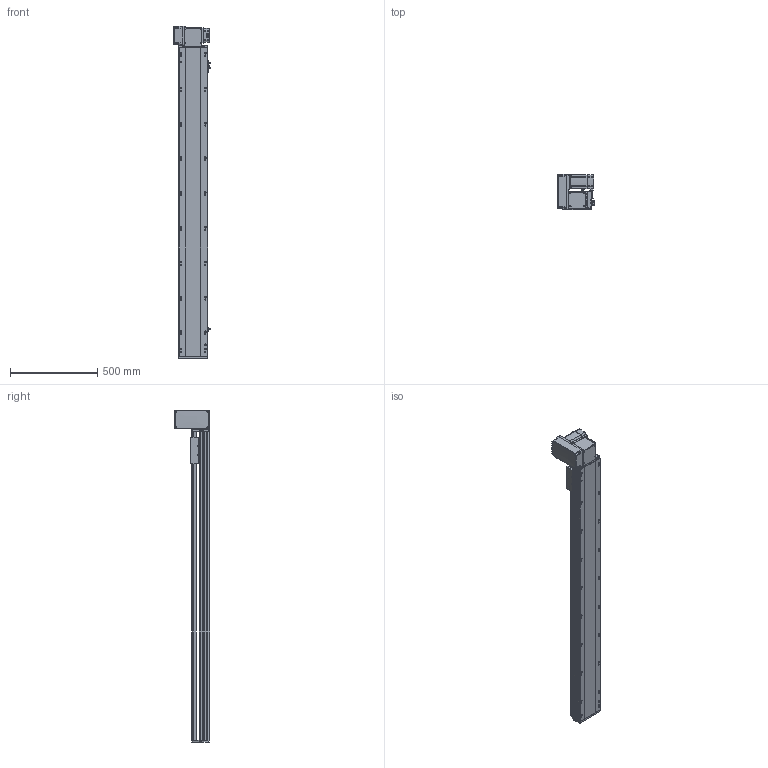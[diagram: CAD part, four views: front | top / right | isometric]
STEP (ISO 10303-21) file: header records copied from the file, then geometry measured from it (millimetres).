
FILE_DESCRIPTION (( 'STEP AP214' ), '1' );
FILE_NAME ('RTB17S-XX-1500-LW-M75-C4.STEP', '2025-12-12T01:07:38', ( '' ), ( '' ), 'SwSTEP 2.0', 'SolidWorks 2018', '' );
FILE_SCHEMA (( 'AUTOMOTIVE_DESIGN' ));
Length unit declared in the file: millimetre
Products named in the file (15): RTB22S-GY-008-M75--萇儂啣^RTB17S-LW-々湍釱蚾饜-750W_RTB17S-XX-XX-LW-M75-C4; RTB17S-L-004-賑釱^RTB17S-賑釱_RTB17S-XX-XX-LW-M75-C4; RTB17S-L-007奻裔^RTB17S-XX-XX-LW-M75-C4; RTB22S-GY-018P^RTB17S-LW-々湍釱蚾饜-750W_RTB17S-XX-XX-LW-M75-C4; RTB22S-GY-017P^RTB17S-LW-々湍釱蚾饜-750W_RTB17S-XX-XX-LW-M75-C4; RTH13-BL-012覜茼え俋离^RTB17S-賑釱_RTB17S-XX-XX-LW-M75-C4; RTB22S-GY-005P^RTB17S-LW-々湍釱蚾饜-750W_RTB17S-XX-XX-LW-M75-C4; RTB17S-L-001-耜醱啣^RTB17S-XX-XX-LW-M75-C4; RTB17S-L-014-T20-P75--々湍釱^RTB17S-LW-々湍釱蚾饜-750W_RTB17S-XX-XX-LW-M75-C4; 750W萇儂^RTB17S-XX-XX-LW-M75-C4; RTB17S-LW-々湍釱蚾饜-750W^RTB17S-XX-XX-LW-M75-C4; RTB17S-賑釱^RTB17S-XX-XX-LW-M75-C4; RTB17-R-011菁釱^RTB17S-XX-XX-LW-M75-C4; EE672^RTB17S-XX-XX-LW-M75-C4; RTB17S-XX-1500-LW-M75-C4
Assembly tree (17 placements, depth 3):
  RTB17S-XX-1500-LW-M75-C4
    RTB17-R-011菁釱^RTB17S-XX-XX-LW-M75-C4
    EE672^RTB17S-XX-XX-LW-M75-C4  x3
    RTB17S-L-001-耜醱啣^RTB17S-XX-XX-LW-M75-C4
    RTB17S-賑釱^RTB17S-XX-XX-LW-M75-C4
      RTB17S-L-004-賑釱^RTB17S-賑釱_RTB17S-XX-XX-LW-M75-C4
      RTH13-BL-012覜茼え俋离^RTB17S-賑釱_RTB17S-XX-XX-LW-M75-C4
    RTB17S-L-007奻裔^RTB17S-XX-XX-LW-M75-C4
    750W萇儂^RTB17S-XX-XX-LW-M75-C4
    RTB17S-LW-々湍釱蚾饜-750W^RTB17S-XX-XX-LW-M75-C4
      RTB17S-L-014-T20-P75--々湍釱^RTB17S-LW-々湍釱蚾饜-750W_RTB17S-XX-XX-LW-M75-C4
      RTB22S-GY-005P^RTB17S-LW-々湍釱蚾饜-750W_RTB17S-XX-XX-LW-M75-C4
      RTB22S-GY-017P^RTB17S-LW-々湍釱蚾饜-750W_RTB17S-XX-XX-LW-M75-C4  x2
      RTB22S-GY-008-M75--萇儂啣^RTB17S-LW-々湍釱蚾饜-750W_RTB17S-XX-XX-LW-M75-C4
      RTB22S-GY-018P^RTB17S-LW-々湍釱蚾饜-750W_RTB17S-XX-XX-LW-M75-C4
Bounding box: 210.4 x 201.5 x 1907.5 mm (x, y, z)
Volume: 15324097.4 mm3; surface area: 2685983 mm2
Topology: 17 solids, 17 shells, 2137 faces, 5944 edges, 3842 vertices
Faces by surface type: plane 976, cylinder 745, bspline 294, cone 110, sphere 8, torus 4
Entity records: 60406 total; most frequent: CARTESIAN_POINT 17808, ORIENTED_EDGE 8732, DIRECTION 8132, EDGE_CURVE 4366, AXIS2_PLACEMENT_3D 2862, VERTEX_POINT 2846, LINE 2408, VECTOR 2408
